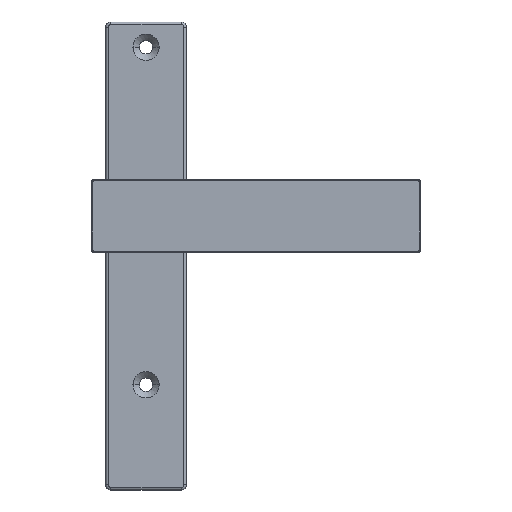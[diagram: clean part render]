
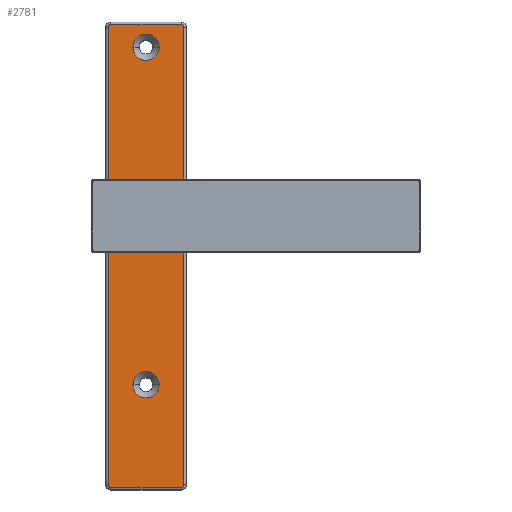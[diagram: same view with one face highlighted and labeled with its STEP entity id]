
A CAD part, top view. The second image highlights one B-rep face of the part: STEP entity #2781.
In plain terms, the highlighted planar face has unit normal (0, 0, 1).
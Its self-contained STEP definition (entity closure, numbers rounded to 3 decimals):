
#67 = EDGE_CURVE ( 'NONE', #2728, #6529, #3546, .T. ) ;
#160 = CARTESIAN_POINT ( 'NONE',  ( -95.172, -89.988, 43.907 ) ) ;
#211 = CARTESIAN_POINT ( 'NONE',  ( -94.172, 92.162, 43.907 ) ) ;
#268 = VERTEX_POINT ( 'NONE', #1930 ) ;
#310 = CIRCLE ( 'NONE', #3189, 5.2 ) ;
#331 = DIRECTION ( 'NONE',  ( 1., 0., 0. ) ) ;
#463 = AXIS2_PLACEMENT_3D ( 'NONE', #3777, #3829, #2965 ) ;
#499 = AXIS2_PLACEMENT_3D ( 'NONE', #1081, #9740, #331 ) ;
#505 = VERTEX_POINT ( 'NONE', #7735 ) ;
#607 = CARTESIAN_POINT ( 'NONE',  ( -66.172, 92.162, 43.907 ) ) ;
#659 = FACE_BOUND ( 'NONE', #3989, .T. ) ;
#697 = EDGE_CURVE ( 'NONE', #8069, #7142, #8218, .T. ) ;
#758 = PLANE ( 'NONE',  #9361 ) ;
#870 = LINE ( 'NONE', #160, #2218 ) ;
#1016 = DIRECTION ( 'NONE',  ( -1., 0., 0. ) ) ;
#1081 = CARTESIAN_POINT ( 'NONE',  ( -66.172, 91.162, 43.907 ) ) ;
#1212 = ORIENTED_EDGE ( 'NONE', *, *, #67, .T. ) ;
#1235 = EDGE_CURVE ( 'NONE', #8225, #2197, #8396, .T. ) ;
#1324 = CARTESIAN_POINT ( 'NONE',  ( -94.172, -90.988, 43.907 ) ) ;
#1341 = DIRECTION ( 'NONE',  ( 1., 0., 0. ) ) ;
#1401 = CARTESIAN_POINT ( 'NONE',  ( -80.172, 16.412, 43.907 ) ) ;
#1444 = AXIS2_PLACEMENT_3D ( 'NONE', #5752, #7154, #3386 ) ;
#1473 = DIRECTION ( 'NONE',  ( 1., 0., 0. ) ) ;
#1512 = ORIENTED_EDGE ( 'NONE', *, *, #8352, .T. ) ;
#1866 = ORIENTED_EDGE ( 'NONE', *, *, #8997, .F. ) ;
#1870 = ORIENTED_EDGE ( 'NONE', *, *, #8128, .T. ) ;
#1930 = CARTESIAN_POINT ( 'NONE',  ( -85.372, 83.162, 43.907 ) ) ;
#2142 = AXIS2_PLACEMENT_3D ( 'NONE', #2148, #8466, #5216 ) ;
#2148 = CARTESIAN_POINT ( 'NONE',  ( -94.172, 91.162, 43.907 ) ) ;
#2197 = VERTEX_POINT ( 'NONE', #5768 ) ;
#2218 = VECTOR ( 'NONE', #9373, 1000. ) ;
#2224 = DIRECTION ( 'NONE',  ( 1., 0., 0. ) ) ;
#2392 = LINE ( 'NONE', #5460, #8178 ) ;
#2427 = VERTEX_POINT ( 'NONE', #7906 ) ;
#2650 = ORIENTED_EDGE ( 'NONE', *, *, #7867, .T. ) ;
#2728 = VERTEX_POINT ( 'NONE', #6189 ) ;
#2781 = ADVANCED_FACE ( 'NONE', ( #3874, #659, #7643, #3721 ), #758, .T. ) ;
#2800 = DIRECTION ( 'NONE',  ( 0., 0., 1. ) ) ;
#2837 = DIRECTION ( 'NONE',  ( 0., 0., 1. ) ) ;
#2870 = VECTOR ( 'NONE', #4241, 1000. ) ;
#2897 = DIRECTION ( 'NONE',  ( 1., 0., 0. ) ) ;
#2905 = DIRECTION ( 'NONE',  ( 1., 0., 0. ) ) ;
#2965 = DIRECTION ( 'NONE',  ( 1., 0., 0. ) ) ;
#3189 = AXIS2_PLACEMENT_3D ( 'NONE', #4537, #5147, #2224 ) ;
#3386 = DIRECTION ( 'NONE',  ( 1., 0., 0. ) ) ;
#3431 = CIRCLE ( 'NONE', #9061, 5.2 ) ;
#3533 = CARTESIAN_POINT ( 'NONE',  ( -66.172, -90.988, 43.907 ) ) ;
#3546 = CIRCLE ( 'NONE', #499, 1. ) ;
#3721 = FACE_BOUND ( 'NONE', #9163, .T. ) ;
#3777 = CARTESIAN_POINT ( 'NONE',  ( -80.172, 83.162, 43.907 ) ) ;
#3824 = DIRECTION ( 'NONE',  ( 1., 0., 0. ) ) ;
#3829 = DIRECTION ( 'NONE',  ( 0., 0., 1. ) ) ;
#3874 = FACE_OUTER_BOUND ( 'NONE', #4958, .T. ) ;
#3877 = AXIS2_PLACEMENT_3D ( 'NONE', #7377, #2800, #2897 ) ;
#3880 = CARTESIAN_POINT ( 'NONE',  ( -94.172, -89.988, 43.907 ) ) ;
#3989 = EDGE_LOOP ( 'NONE', ( #4011, #6400 ) ) ;
#4000 = AXIS2_PLACEMENT_3D ( 'NONE', #3880, #9876, #1473 ) ;
#4011 = ORIENTED_EDGE ( 'NONE', *, *, #4316, .F. ) ;
#4082 = DIRECTION ( 'NONE',  ( 1., 0., 0. ) ) ;
#4241 = DIRECTION ( 'NONE',  ( 0., 1., 0. ) ) ;
#4265 = VERTEX_POINT ( 'NONE', #1324 ) ;
#4316 = EDGE_CURVE ( 'NONE', #505, #268, #3431, .T. ) ;
#4537 = CARTESIAN_POINT ( 'NONE',  ( -80.172, -50.338, 43.907 ) ) ;
#4586 = ORIENTED_EDGE ( 'NONE', *, *, #1235, .T. ) ;
#4683 = DIRECTION ( 'NONE',  ( 0., 0., 1. ) ) ;
#4729 = ORIENTED_EDGE ( 'NONE', *, *, #6866, .F. ) ;
#4937 = DIRECTION ( 'NONE',  ( 0., 0., 1. ) ) ;
#4958 = EDGE_LOOP ( 'NONE', ( #2650, #5607, #7796, #1212, #1512, #4586, #5070, #1870 ) ) ;
#5001 = EDGE_CURVE ( 'NONE', #2197, #8445, #870, .T. ) ;
#5070 = ORIENTED_EDGE ( 'NONE', *, *, #5001, .T. ) ;
#5147 = DIRECTION ( 'NONE',  ( 0., 0., 1. ) ) ;
#5216 = DIRECTION ( 'NONE',  ( 1., 0., 0. ) ) ;
#5321 = CIRCLE ( 'NONE', #5609, 6.5 ) ;
#5447 = CARTESIAN_POINT ( 'NONE',  ( -94.172, 92.162, 43.907 ) ) ;
#5460 = CARTESIAN_POINT ( 'NONE',  ( -66.172, -90.988, 43.907 ) ) ;
#5607 = ORIENTED_EDGE ( 'NONE', *, *, #697, .T. ) ;
#5609 = AXIS2_PLACEMENT_3D ( 'NONE', #9744, #2837, #1341 ) ;
#5752 = CARTESIAN_POINT ( 'NONE',  ( -80.172, -50.338, 43.907 ) ) ;
#5768 = CARTESIAN_POINT ( 'NONE',  ( -95.172, 91.162, 43.907 ) ) ;
#5778 = CIRCLE ( 'NONE', #1444, 5.2 ) ;
#5841 = CARTESIAN_POINT ( 'NONE',  ( -95.172, -89.988, 43.907 ) ) ;
#6071 = LINE ( 'NONE', #9142, #2870 ) ;
#6075 = DIRECTION ( 'NONE',  ( 0., 0., 1. ) ) ;
#6093 = AXIS2_PLACEMENT_3D ( 'NONE', #1401, #6075, #2905 ) ;
#6189 = CARTESIAN_POINT ( 'NONE',  ( -65.172, 91.162, 43.907 ) ) ;
#6242 = CARTESIAN_POINT ( 'NONE',  ( -80.172, 16.412, 43.907 ) ) ;
#6376 = CARTESIAN_POINT ( 'NONE',  ( -65.172, -89.988, 43.907 ) ) ;
#6400 = ORIENTED_EDGE ( 'NONE', *, *, #8161, .F. ) ;
#6419 = CIRCLE ( 'NONE', #6093, 6.5 ) ;
#6446 = EDGE_CURVE ( 'NONE', #9759, #2427, #310, .T. ) ;
#6529 = VERTEX_POINT ( 'NONE', #607 ) ;
#6728 = ORIENTED_EDGE ( 'NONE', *, *, #7695, .F. ) ;
#6866 = EDGE_CURVE ( 'NONE', #9243, #7533, #6419, .T. ) ;
#7142 = VERTEX_POINT ( 'NONE', #6376 ) ;
#7154 = DIRECTION ( 'NONE',  ( 0., 0., 1. ) ) ;
#7377 = CARTESIAN_POINT ( 'NONE',  ( -66.172, -89.988, 43.907 ) ) ;
#7533 = VERTEX_POINT ( 'NONE', #9394 ) ;
#7599 = CARTESIAN_POINT ( 'NONE',  ( -86.672, 16.412, 43.907 ) ) ;
#7643 = FACE_BOUND ( 'NONE', #7820, .T. ) ;
#7695 = EDGE_CURVE ( 'NONE', #7533, #9243, #5321, .T. ) ;
#7735 = CARTESIAN_POINT ( 'NONE',  ( -74.972, 83.162, 43.907 ) ) ;
#7796 = ORIENTED_EDGE ( 'NONE', *, *, #8553, .T. ) ;
#7820 = EDGE_LOOP ( 'NONE', ( #1866, #8295 ) ) ;
#7867 = EDGE_CURVE ( 'NONE', #4265, #8069, #2392, .T. ) ;
#7906 = CARTESIAN_POINT ( 'NONE',  ( -74.972, -50.338, 43.907 ) ) ;
#8069 = VERTEX_POINT ( 'NONE', #3533 ) ;
#8113 = CARTESIAN_POINT ( 'NONE',  ( -80.172, 83.162, 43.907 ) ) ;
#8128 = EDGE_CURVE ( 'NONE', #8445, #4265, #8334, .T. ) ;
#8161 = EDGE_CURVE ( 'NONE', #268, #505, #9947, .T. ) ;
#8178 = VECTOR ( 'NONE', #8319, 1000. ) ;
#8218 = CIRCLE ( 'NONE', #3877, 1. ) ;
#8225 = VERTEX_POINT ( 'NONE', #5447 ) ;
#8295 = ORIENTED_EDGE ( 'NONE', *, *, #6446, .F. ) ;
#8319 = DIRECTION ( 'NONE',  ( 1., 0., 0. ) ) ;
#8334 = CIRCLE ( 'NONE', #4000, 1. ) ;
#8352 = EDGE_CURVE ( 'NONE', #6529, #8225, #8772, .T. ) ;
#8396 = CIRCLE ( 'NONE', #2142, 1. ) ;
#8445 = VERTEX_POINT ( 'NONE', #5841 ) ;
#8466 = DIRECTION ( 'NONE',  ( 0., 0., 1. ) ) ;
#8500 = VECTOR ( 'NONE', #1016, 1000. ) ;
#8553 = EDGE_CURVE ( 'NONE', #7142, #2728, #6071, .T. ) ;
#8772 = LINE ( 'NONE', #211, #8500 ) ;
#8997 = EDGE_CURVE ( 'NONE', #2427, #9759, #5778, .T. ) ;
#9061 = AXIS2_PLACEMENT_3D ( 'NONE', #8113, #4937, #4082 ) ;
#9142 = CARTESIAN_POINT ( 'NONE',  ( -65.172, 91.162, 43.907 ) ) ;
#9163 = EDGE_LOOP ( 'NONE', ( #4729, #6728 ) ) ;
#9243 = VERTEX_POINT ( 'NONE', #7599 ) ;
#9361 = AXIS2_PLACEMENT_3D ( 'NONE', #6242, #4683, #3824 ) ;
#9373 = DIRECTION ( 'NONE',  ( 0., -1., 0. ) ) ;
#9394 = CARTESIAN_POINT ( 'NONE',  ( -73.672, 16.412, 43.907 ) ) ;
#9740 = DIRECTION ( 'NONE',  ( 0., 0., 1. ) ) ;
#9744 = CARTESIAN_POINT ( 'NONE',  ( -80.172, 16.412, 43.907 ) ) ;
#9759 = VERTEX_POINT ( 'NONE', #9848 ) ;
#9848 = CARTESIAN_POINT ( 'NONE',  ( -85.372, -50.338, 43.907 ) ) ;
#9876 = DIRECTION ( 'NONE',  ( 0., 0., 1. ) ) ;
#9947 = CIRCLE ( 'NONE', #463, 5.2 ) ;
